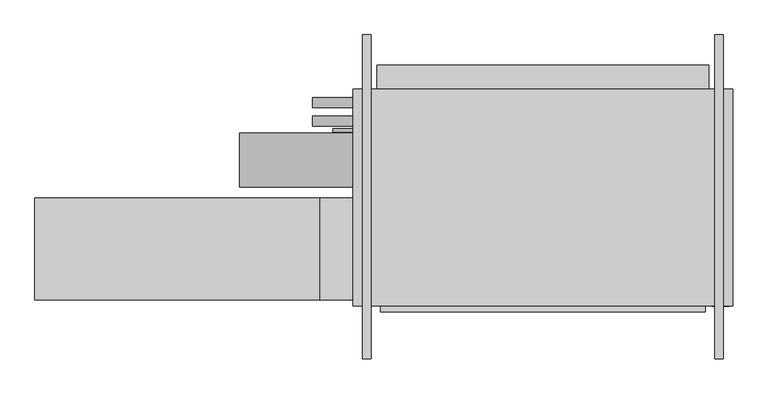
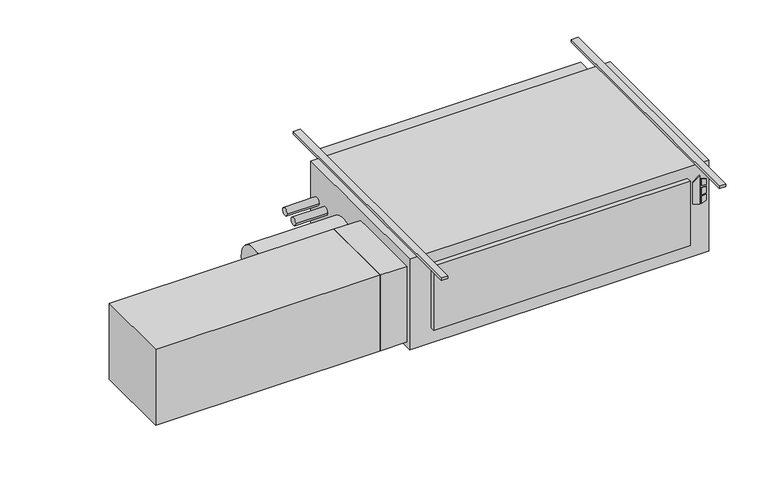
"""IFC4 building model written with IfcOpenShell, lengths in millimetres: proxy geometry."""

from ifc_helpers import new_model, si_unit, point, frame, frame_2d, origin, origin_with_axes, place, context, project, spatial, polyline, circle_curve, trimmed, segment, composite_curve, outline, extrude, source, transform, mapped, element, save


def mechanical_equipment_b6417b97(model_context):
    return source(origin(), model_context, "Body", "SweptSolid", [
        extrude(outline(polyline([(-193.2519297, 785.8868862), (-203.2, 818.0602728), (-61.0290756, 818.0602728), (-84.0510817, 785.8868862), (-193.2519297, 785.8868862)])), frame((0.0, -647.7, 0.0), z_axis=(0.0, 1.0, 0.0), x_axis=(0.0, 0.0, 1.0)), (0.0, 0.0, 1.0), 3.175),
        extrude(outline(polyline([(-114.2526443, 824.8186058), (-117.4550368, 850.9), (-88.2261958, 850.9), (-80.1617807, 824.8186058), (-114.2526443, 824.8186058)])), frame((0.0, -647.7, 0.0), z_axis=(0.0, 1.0, 0.0), x_axis=(0.0, 0.0, 1.0)), (0.0, 0.0, 1.0), 3.175),
        extrude(outline(polyline([(-166.1161712, 850.9), (-169.7816721, 824.8186058), (-203.2, 824.8186058), (-194.5657628, 850.9), (-166.1161712, 850.9)])), frame((0.0, -647.7, 0.0), z_axis=(0.0, 1.0, 0.0), x_axis=(0.0, 0.0, 1.0)), (0.0, 0.0, 1.0), 3.175),
        extrude(outline(polyline([(-126.8010097, 850.9), (-124.5191834, 824.8186058), (-160.4567319, 824.8186058), (-157.7154669, 850.9), (-126.8010097, 850.9)])), frame((0.0, -647.7, 0.0), z_axis=(0.0, 1.0, 0.0), x_axis=(0.0, 0.0, 1.0)), (0.0, 0.0, 1.0), 3.175),
        extrude(outline(polyline([(762.0, -666.877), (-457.2, -666.877), (-457.2, -644.525), (762.0, -644.525), (762.0, -666.877)])), frame((0.0, 0.0, -381.0), z_axis=(0.0, 0.0, 1.0), x_axis=(1.0, 0.0, 0.0)), (0.0, 0.0, 1.0), 323.85),
        extrude(outline(polyline([(-1752.6, -622.3), (-1752.6, -241.3), (-685.8, -241.3), (-685.8, -622.3), (-1752.6, -622.3)])), frame((0.0, 0.0, -431.8), z_axis=(0.0, 0.0, 1.0), x_axis=(1.0, 0.0, 0.0)), (0.0, 0.0, 1.0), 381.0),
        extrude(outline(polyline([(-558.8, -241.3), (-558.8, -622.3), (-685.8, -622.3), (-685.8, -241.3), (-558.8, -241.3)])), frame((0.0, 0.0, -431.8), z_axis=(0.0, 0.0, 1.0), x_axis=(1.0, 0.0, 0.0)), (0.0, 0.0, 1.0), 381.0),
        extrude(outline(composite_curve([segment(trimmed(circle_curve(frame_2d((-98.4896516, -228.6360165)), 101.6), [point((-200.0896516, -228.6360165))], [point((3.1103484, -228.6360165))], False, "CARTESIAN"), True, "CONTINUOUS"), segment(trimmed(circle_curve(frame_2d((-98.4896516, -228.6360165)), 101.6), [point((3.1103484, -228.6360165))], [point((-200.0896516, -228.6360165))], False, "CARTESIAN"), True, "CONTINUOUS")], self_intersect=False)), frame((-984.25, 0.0, 0.0), z_axis=(1.0, 0.0, 0.0), x_axis=(0.0, 1.0, 0.0)), (0.0, 0.0, 1.0), 425.45),
        extrude(outline(composite_curve([segment(trimmed(circle_curve(frame_2d((47.625, -177.8)), 19.05), [point((28.575, -177.8))], [point((66.675, -177.8))], False, "CARTESIAN"), True, "CONTINUOUS"), segment(trimmed(circle_curve(frame_2d((47.625, -177.8)), 19.05), [point((66.675, -177.8))], [point((28.575, -177.8))], False, "CARTESIAN"), True, "CONTINUOUS")], self_intersect=False)), frame((-711.2, 0.0, 0.0), z_axis=(1.0, 0.0, 0.0), x_axis=(0.0, 1.0, 0.0)), (0.0, 0.0, 1.0), 152.4),
        extrude(outline(composite_curve([segment(trimmed(circle_curve(frame_2d((117.475, -171.45)), 19.05), [point((98.425, -171.45))], [point((136.525, -171.45))], False, "CARTESIAN"), True, "CONTINUOUS"), segment(trimmed(circle_curve(frame_2d((117.475, -171.45)), 19.05), [point((136.525, -171.45))], [point((98.425, -171.45))], False, "CARTESIAN"), True, "CONTINUOUS")], self_intersect=False)), frame((-711.2, 0.0, 0.0), z_axis=(1.0, 0.0, 0.0), x_axis=(0.0, 1.0, 0.0)), (0.0, 0.0, 1.0), 152.4),
        extrude(outline(composite_curve([segment(trimmed(circle_curve(frame_2d((12.7, -409.575)), 6.35), [point((6.35, -409.575))], [point((19.05, -409.575))], False, "CARTESIAN"), True, "CONTINUOUS"), segment(trimmed(circle_curve(frame_2d((12.7, -409.575)), 6.35), [point((19.05, -409.575))], [point((6.35, -409.575))], False, "CARTESIAN"), True, "CONTINUOUS")], self_intersect=False)), frame((-635.0, 0.0, 0.0), z_axis=(1.0, 0.0, 0.0), x_axis=(0.0, 1.0, 0.0)), (0.0, 0.0, 1.0), 76.2),
        extrude(outline(polyline([(863.6, 168.275), (863.6, -644.525), (-558.8, -644.525), (-558.8, 168.275), (863.6, 168.275)])), frame((0.0, 0.0, -457.2), z_axis=(0.0, 0.0, 1.0), x_axis=(1.0, 0.0, 0.0)), (0.0, 0.0, 1.0), 457.2),
        extrude(outline(polyline([(-469.9, 257.175), (774.7, 257.175), (774.7, 168.275), (-469.9, 168.275), (-469.9, 257.175)])), frame((0.0, 0.0, -381.0), z_axis=(0.0, 0.0, 1.0), x_axis=(1.0, 0.0, 0.0)), (0.0, 0.0, 1.0), 355.6),
        extrude(outline(polyline([(-492.125, 371.475), (-492.125, -844.677), (-523.875, -844.677), (-523.875, 371.475), (-492.125, 371.475)])), origin_with_axes(), (0.0, 0.0, 1.0), 12.7),
        extrude(outline(polyline([(828.675, 371.475), (828.675, -844.677), (796.925, -844.677), (796.925, 371.475), (828.675, 371.475)])), origin_with_axes(), (0.0, 0.0, 1.0), 12.7),
    ])


if __name__ == "__main__":
    model = new_model("IFC4")
    model_context = context("Model", 3, world=origin())
    ifc_project = project(units=[si_unit("LENGTHUNIT", "METRE", prefix="MILLI")], contexts=[model_context])
    site = spatial("IfcSite", under=ifc_project)
    building = spatial("IfcBuilding", under=site)
    placement = place(None, origin())
    mechanical_equipment_shape = mechanical_equipment_b6417b97(model_context)
    element("IfcBuildingElementProxy", 1, Name="High_Capacity_Horizontal_Cabinet_Fan_Coil_Unit_-_HTY_-_IEC_-_2-Pipe_WO-Attenuator_LH Side_2022 : Size 20 - 277v/60Hz/1Ph - 8/0 Coil - 8\" AirIn", ObjectType="High_Capacity_Horizontal_Cabinet_Fan_Coil_Unit_-_HTY_-_IEC_-_2-Pipe_WO-Attenuator_LH Side_2022 : Size 20 - 277v/60Hz/1Ph - 8/0 Coil - 8\" AirIn", at=placement, inside=building, context=model_context, shape_type="MappedRepresentation", body=[
        mapped(mechanical_equipment_shape, transform((0.0, 0.0, 0.0), x_axis=(1.0, 0.0, 0.0), y_axis=(0.0, 1.0, 0.0), z_axis=(0.0, 0.0, 1.0))),
    ])
    save(model, "model.ifc")
